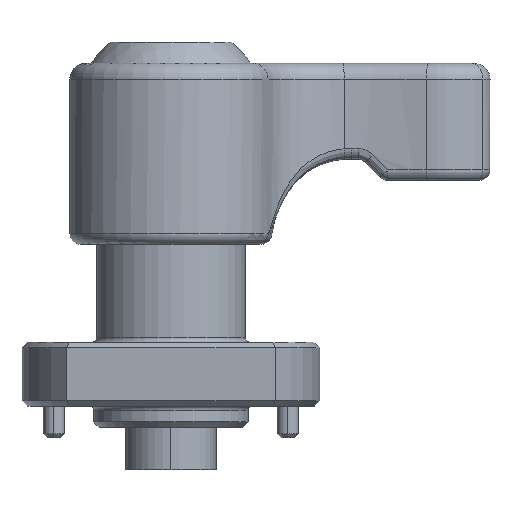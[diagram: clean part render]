
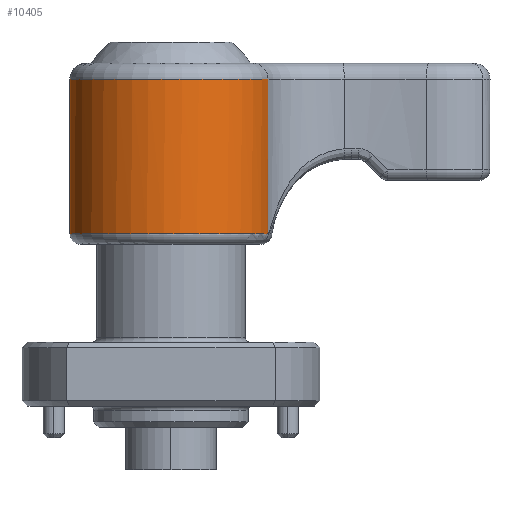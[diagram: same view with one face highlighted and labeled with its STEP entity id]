
A CAD part, front view. The second image highlights one B-rep face of the part: STEP entity #10405.
In plain terms, the highlighted cylindrical face has radius 9.5 mm (diameter 19 mm), a partial arc.
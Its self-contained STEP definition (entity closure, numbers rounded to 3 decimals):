
#180 = DIRECTION ( 'NONE',  ( 1., 0., 0. ) ) ;
#355 = VERTEX_POINT ( 'NONE', #2398 ) ;
#378 = VERTEX_POINT ( 'NONE', #544 ) ;
#462 = CARTESIAN_POINT ( 'NONE',  ( 9.5, 0., 34.214 ) ) ;
#544 = CARTESIAN_POINT ( 'NONE',  ( -9.125, 2.642, 30.714 ) ) ;
#558 = DIRECTION ( 'NONE',  ( 0., 0., 1. ) ) ;
#636 = LINE ( 'NONE', #462, #7075 ) ;
#728 = AXIS2_PLACEMENT_3D ( 'NONE', #4145, #558, #6658 ) ;
#881 = AXIS2_PLACEMENT_3D ( 'NONE', #3764, #4575, #7317 ) ;
#1319 = DIRECTION ( 'NONE',  ( 0., 0., 1. ) ) ;
#1589 = EDGE_CURVE ( 'NONE', #11379, #355, #9265, .T. ) ;
#1598 = EDGE_CURVE ( 'NONE', #355, #6448, #10440, .T. ) ;
#1920 = DIRECTION ( 'NONE',  ( 0., 0., 1. ) ) ;
#2285 = ORIENTED_EDGE ( 'NONE', *, *, #10871, .T. ) ;
#2398 = CARTESIAN_POINT ( 'NONE',  ( -9.04, 2.921, 16.214 ) ) ;
#2659 = EDGE_CURVE ( 'NONE', #6448, #378, #3007, .T. ) ;
#2788 = FACE_OUTER_BOUND ( 'NONE', #5706, .T. ) ;
#3007 = LINE ( 'NONE', #9983, #9861 ) ;
#3279 = CARTESIAN_POINT ( 'NONE',  ( -9.099, 2.732, 16.237 ) ) ;
#3404 = ORIENTED_EDGE ( 'NONE', *, *, #1598, .T. ) ;
#3589 = EDGE_CURVE ( 'NONE', #11379, #4827, #636, .T. ) ;
#3632 = CARTESIAN_POINT ( 'NONE',  ( 9.5, 0., 16.214 ) ) ;
#3764 = CARTESIAN_POINT ( 'NONE',  ( 0., 0., 30.714 ) ) ;
#4145 = CARTESIAN_POINT ( 'NONE',  ( 0., 0., 16.214 ) ) ;
#4575 = DIRECTION ( 'NONE',  ( 0., 0., -1. ) ) ;
#4771 = CIRCLE ( 'NONE', #881, 9.5 ) ;
#4827 = VERTEX_POINT ( 'NONE', #4927 ) ;
#4927 = CARTESIAN_POINT ( 'NONE',  ( 9.5, 0., 30.714 ) ) ;
#4984 = ORIENTED_EDGE ( 'NONE', *, *, #3589, .F. ) ;
#5114 = ORIENTED_EDGE ( 'NONE', *, *, #2659, .T. ) ;
#5627 = CARTESIAN_POINT ( 'NONE',  ( 0., 0., 34.214 ) ) ;
#5689 = DIRECTION ( 'NONE',  ( 0., 0., 1. ) ) ;
#5706 = EDGE_LOOP ( 'NONE', ( #4984, #10823, #3404, #5114, #2285 ) ) ;
#5960 = CARTESIAN_POINT ( 'NONE',  ( -9.125, 2.642, 16.274 ) ) ;
#6448 = VERTEX_POINT ( 'NONE', #8260 ) ;
#6658 = DIRECTION ( 'NONE',  ( 1., 0., 0. ) ) ;
#6831 = CARTESIAN_POINT ( 'NONE',  ( -9.04, 2.921, 16.214 ) ) ;
#7075 = VECTOR ( 'NONE', #5689, 1000. ) ;
#7217 = CYLINDRICAL_SURFACE ( 'NONE', #8661, 9.5 ) ;
#7317 = DIRECTION ( 'NONE',  ( -1., 0., 0. ) ) ;
#8260 = CARTESIAN_POINT ( 'NONE',  ( -9.125, 2.642, 16.274 ) ) ;
#8469 = CARTESIAN_POINT ( 'NONE',  ( -9.055, 2.873, 16.214 ) ) ;
#8661 = AXIS2_PLACEMENT_3D ( 'NONE', #5627, #1920, #180 ) ;
#9265 = CIRCLE ( 'NONE', #728, 9.5 ) ;
#9861 = VECTOR ( 'NONE', #1319, 1000. ) ;
#9983 = CARTESIAN_POINT ( 'NONE',  ( -9.125, 2.642, 15.214 ) ) ;
#10373 = CARTESIAN_POINT ( 'NONE',  ( -9.113, 2.685, 16.253 ) ) ;
#10405 = ADVANCED_FACE ( 'NONE', ( #2788 ), #7217, .T. ) ;
#10440 = B_SPLINE_CURVE_WITH_KNOTS ( 'NONE', 3,
 ( #6831, #8469, #11248, #3279, #10373, #5960 ),
 .UNSPECIFIED., .F., .F.,
 ( 4, 2, 4 ),
 ( 0., 0., 0. ),
 .UNSPECIFIED. ) ;
#10823 = ORIENTED_EDGE ( 'NONE', *, *, #1589, .T. ) ;
#10871 = EDGE_CURVE ( 'NONE', #378, #4827, #4771, .T. ) ;
#11248 = CARTESIAN_POINT ( 'NONE',  ( -9.07, 2.826, 16.218 ) ) ;
#11379 = VERTEX_POINT ( 'NONE', #3632 ) ;
